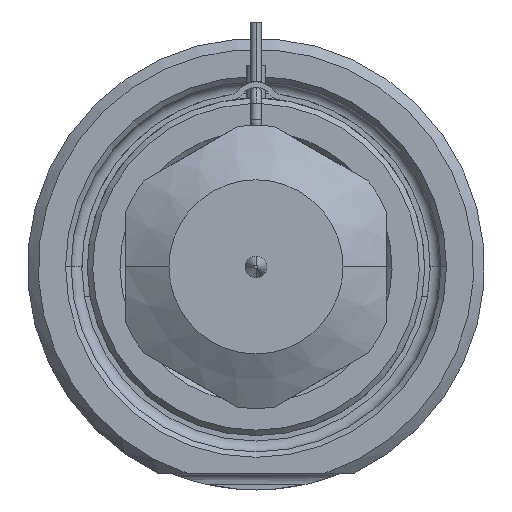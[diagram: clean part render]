
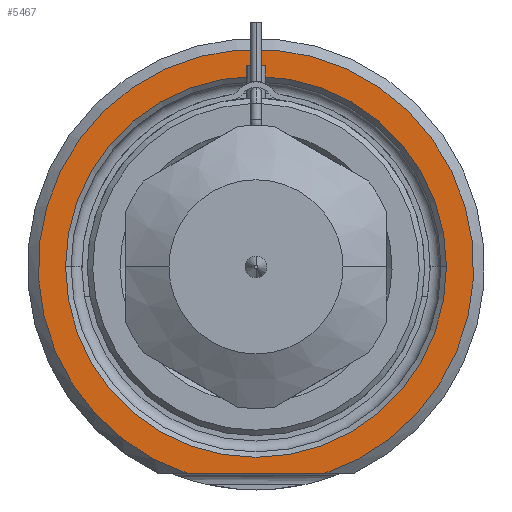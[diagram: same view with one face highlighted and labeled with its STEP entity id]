
A CAD part, front view. The second image highlights one B-rep face of the part: STEP entity #5467.
In plain terms, the highlighted planar face has unit normal (0, -1, 0).
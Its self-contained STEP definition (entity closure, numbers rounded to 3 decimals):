
#1466=DIRECTION('',(1.,0.,0.));
#1467=VECTOR('',#1466,12.49);
#1468=CARTESIAN_POINT('',(-6.245,0.,-19.));
#1469=LINE('',#1468,#1467);
#1470=CARTESIAN_POINT('',(0.,0.,0.));
#1471=DIRECTION('',(0.,1.,0.));
#1472=DIRECTION('',(-1.,0.,0.));
#1473=AXIS2_PLACEMENT_3D('',#1470,#1471,#1472);
#1475=CARTESIAN_POINT('',(0.,0.,0.));
#1476=DIRECTION('',(0.,1.,0.));
#1477=DIRECTION('',(1.,0.,0.));
#1478=AXIS2_PLACEMENT_3D('',#1475,#1476,#1477);
#1584=CARTESIAN_POINT('',(0.,0.,0.));
#1585=DIRECTION('',(0.,-1.,0.));
#1586=DIRECTION('',(0.312,0.,-0.95));
#1587=AXIS2_PLACEMENT_3D('',#1584,#1585,#1586);
#3360=CARTESIAN_POINT('',(-17.5,0.,0.));
#3361=CARTESIAN_POINT('',(17.5,0.,0.));
#3362=VERTEX_POINT('',#3360);
#3363=VERTEX_POINT('',#3361);
#3404=CARTESIAN_POINT('',(-6.245,0.,-19.));
#3405=CARTESIAN_POINT('',(6.245,0.,-19.));
#3406=VERTEX_POINT('',#3404);
#3407=VERTEX_POINT('',#3405);
#5451=CARTESIAN_POINT('',(0.,0.,0.));
#5452=DIRECTION('',(0.,-1.,0.));
#5453=DIRECTION('',(1.,0.,0.));
#5454=AXIS2_PLACEMENT_3D('',#5451,#5452,#5453);
#5455=PLANE('',#5454);
#5457=ORIENTED_EDGE('',*,*,#5456,.F.);
#5459=ORIENTED_EDGE('',*,*,#5458,.F.);
#5460=EDGE_LOOP('',(#5457,#5459));
#5461=FACE_OUTER_BOUND('',#5460,.F.);
#5462=ORIENTED_EDGE('',*,*,#5441,.F.);
#5464=ORIENTED_EDGE('',*,*,#5463,.F.);
#5465=EDGE_LOOP('',(#5462,#5464));
#5466=FACE_BOUND('',#5465,.F.);
#5467=ADVANCED_FACE('',(#5461,#5466),#5455,.T.);
#1474=CIRCLE('',#1473,17.5);
#1479=CIRCLE('',#1478,17.5);
#1588=CIRCLE('',#1587,20.);
#5441=EDGE_CURVE('',#3362,#3363,#1474,.T.);
#5456=EDGE_CURVE('',#3406,#3407,#1469,.T.);
#5458=EDGE_CURVE('',#3407,#3406,#1588,.T.);
#5463=EDGE_CURVE('',#3363,#3362,#1479,.T.);
